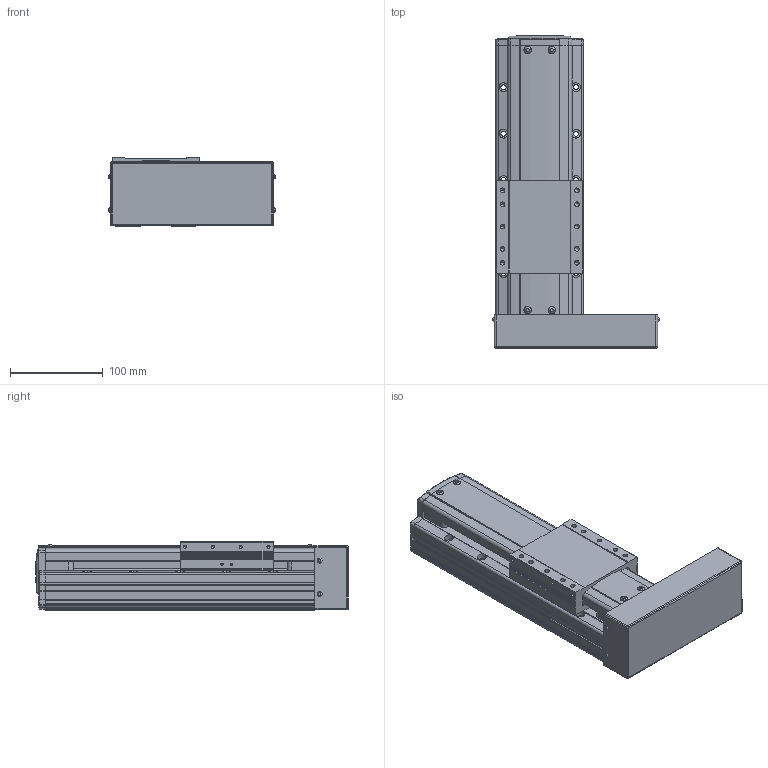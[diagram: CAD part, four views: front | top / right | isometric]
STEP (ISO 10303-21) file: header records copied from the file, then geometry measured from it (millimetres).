
FILE_DESCRIPTION(('STEP AP214'),'1');
FILE_NAME('Z:/Web/3D/PSA95/STP/PSA95-100 (3D)/PSA95ㅁㅁ-100PR.stp','2014-07-02T23:35:14',(' '),(' '),'Spatial InterOp 3D',' ',' ');
FILE_SCHEMA(('automotive_design'));
Length unit declared in the file: millimetre
Products named in the file (23): BASE; RRCV; 스크루 : Round - M4.0 x 10.0; 너트 : Square - M10.0 x 220.7419; RR1500; FRCV-090; 스크루 : Round - M4.0 x 6.0; SLBL-PA90; MOTOR PLATE COVER; 스크루 : Round - M3.0 x 6.0
Bounding box: 179.13 x 336.5 x 74 mm (x, y, z)
Volume: 2118796.1 mm3; surface area: 255369.8 mm2
Topology: 23 solids, 23 shells, 1803 faces, 4838 edges, 3094 vertices
Faces by surface type: plane 1043, cylinder 515, cone 165, sphere 42, bspline 24, torus 14
Entity records: 72782 total; most frequent: CARTESIAN_POINT 12597, DIRECTION 9484, ORIENTED_EDGE 9468, EDGE_CURVE 4734, LINE 3294, VECTOR 3294, AXIS2_PLACEMENT_3D 3095, VERTEX_POINT 3094
